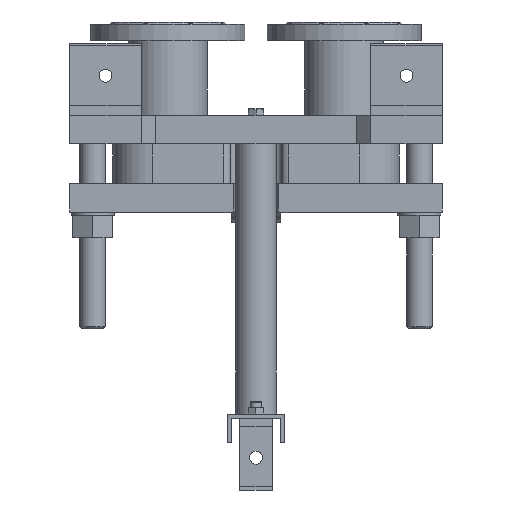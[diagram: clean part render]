
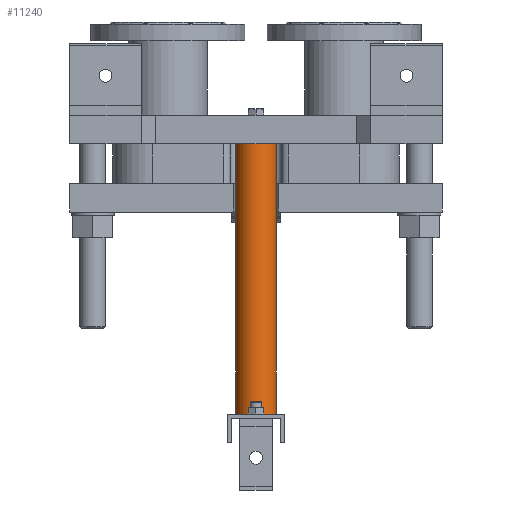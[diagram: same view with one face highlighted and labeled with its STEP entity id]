
A CAD part, front view. The second image highlights one B-rep face of the part: STEP entity #11240.
In plain terms, the highlighted cylindrical face has radius 28.5 mm (diameter 57 mm), a full revolution.
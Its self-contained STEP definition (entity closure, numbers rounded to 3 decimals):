
#781=LINE('',#22043,#1754);
#1754=VECTOR('',#14569,28.5);
#2333=CYLINDRICAL_SURFACE('',#12263,28.5);
#2995=FACE_OUTER_BOUND('',#3777,.T.);
#3777=EDGE_LOOP('',(#9013,#9014,#9015,#9016));
#4462=CIRCLE('',#12264,28.5);
#4463=CIRCLE('',#12265,28.5);
#5286=VERTEX_POINT('',#22040);
#5287=VERTEX_POINT('',#22042);
#6596=EDGE_CURVE('',#5286,#5286,#4462,.T.);
#6597=EDGE_CURVE('',#5286,#5287,#781,.T.);
#6598=EDGE_CURVE('',#5287,#5287,#4463,.T.);
#9013=ORIENTED_EDGE('',*,*,#6596,.F.);
#9014=ORIENTED_EDGE('',*,*,#6597,.T.);
#9015=ORIENTED_EDGE('',*,*,#6598,.T.);
#9016=ORIENTED_EDGE('',*,*,#6597,.F.);
#11240=ADVANCED_FACE('',(#2995),#2333,.T.);
#12263=AXIS2_PLACEMENT_3D('',#22039,#14565,#14566);
#12264=AXIS2_PLACEMENT_3D('',#22041,#14567,#14568);
#12265=AXIS2_PLACEMENT_3D('',#22044,#14570,#14571);
#14565=DIRECTION('center_axis',(0.,0.,
-1.));
#14566=DIRECTION('ref_axis',(-1.,0.,0.));
#14567=DIRECTION('center_axis',(0.,0.,
-1.));
#14568=DIRECTION('ref_axis',(-1.,0.,0.));
#14569=DIRECTION('',(0.,0.,1.));
#14570=DIRECTION('center_axis',(0.,0.,
-1.));
#14571=DIRECTION('ref_axis',(-1.,0.,0.));
#22039=CARTESIAN_POINT('Origin',(0.,215.,0.));
#22040=CARTESIAN_POINT('',(28.5,215.,-377.));
#22041=CARTESIAN_POINT('Origin',(0.,215.,-377.));
#22042=CARTESIAN_POINT('',(28.5,215.,0.));
#22043=CARTESIAN_POINT('',(28.5,215.,0.));
#22044=CARTESIAN_POINT('Origin',(0.,215.,0.));
